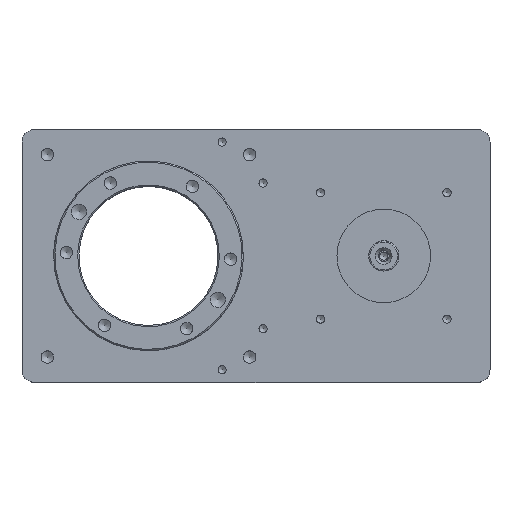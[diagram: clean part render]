
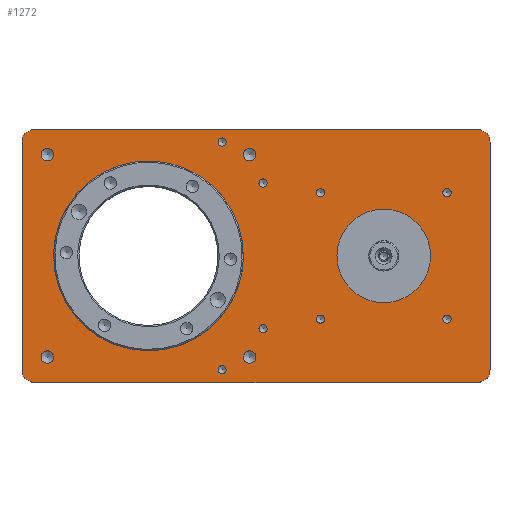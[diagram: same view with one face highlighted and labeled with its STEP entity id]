
A CAD part, top view. The second image highlights one B-rep face of the part: STEP entity #1272.
In plain terms, the highlighted planar face has unit normal (0, 0, 1).
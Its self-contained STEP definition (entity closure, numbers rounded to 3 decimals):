
#621=CARTESIAN_POINT('',(96.921,21.2,48.));
#622=VERTEX_POINT('',#621);
#623=CARTESIAN_POINT('',(95.3,21.2,48.));
#624=DIRECTION('',(0.0,0.0,-1.0));
#625=DIRECTION('',(1.0,0.0,0.0));
#626=AXIS2_PLACEMENT_3D('',#623,#624,#625);
#627=CIRCLE('',#626,1.621);
#628=EDGE_CURVE('',#622,#622,#627,.T.);
#658=CARTESIAN_POINT('',(80.721,5.0,48.));
#659=VERTEX_POINT('',#658);
#660=CARTESIAN_POINT('',(79.1,5.0,48.));
#661=DIRECTION('',(0.0,0.0,-1.0));
#662=DIRECTION('',(1.0,0.0,0.0));
#663=AXIS2_PLACEMENT_3D('',#660,#661,#662);
#664=CIRCLE('',#663,1.621);
#665=EDGE_CURVE('',#659,#659,#664,.T.);
#695=CARTESIAN_POINT('',(96.921,78.8,48.));
#696=VERTEX_POINT('',#695);
#697=CARTESIAN_POINT('',(95.3,78.8,48.));
#698=DIRECTION('',(0.0,0.0,-1.0));
#699=DIRECTION('',(1.0,0.0,0.0));
#700=AXIS2_PLACEMENT_3D('',#697,#698,#699);
#701=CIRCLE('',#700,1.621);
#702=EDGE_CURVE('',#696,#696,#701,.T.);
#732=CARTESIAN_POINT('',(80.721,95.0,48.));
#733=VERTEX_POINT('',#732);
#734=CARTESIAN_POINT('',(79.1,95.0,48.));
#735=DIRECTION('',(0.0,0.0,-1.0));
#736=DIRECTION('',(1.0,0.0,0.0));
#737=AXIS2_PLACEMENT_3D('',#734,#735,#736);
#738=CIRCLE('',#737,1.621);
#739=EDGE_CURVE('',#733,#733,#738,.T.);
#769=CARTESIAN_POINT('',(169.621,25.,48.));
#770=VERTEX_POINT('',#769);
#771=CARTESIAN_POINT('',(168.,25.,48.));
#772=DIRECTION('',(0.0,0.0,-1.0));
#773=DIRECTION('',(1.0,0.0,0.0));
#774=AXIS2_PLACEMENT_3D('',#771,#772,#773);
#775=CIRCLE('',#774,1.621);
#776=EDGE_CURVE('',#770,#770,#775,.T.);
#806=CARTESIAN_POINT('',(119.621,25.,48.));
#807=VERTEX_POINT('',#806);
#808=CARTESIAN_POINT('',(118.0,25.,48.));
#809=DIRECTION('',(0.0,0.0,-1.0));
#810=DIRECTION('',(1.0,0.0,0.0));
#811=AXIS2_PLACEMENT_3D('',#808,#809,#810);
#812=CIRCLE('',#811,1.621);
#813=EDGE_CURVE('',#807,#807,#812,.T.);
#843=CARTESIAN_POINT('',(169.621,75.,48.));
#844=VERTEX_POINT('',#843);
#845=CARTESIAN_POINT('',(168.,75.,48.));
#846=DIRECTION('',(0.0,0.0,-1.0));
#847=DIRECTION('',(1.0,0.0,0.0));
#848=AXIS2_PLACEMENT_3D('',#845,#846,#847);
#849=CIRCLE('',#848,1.621);
#850=EDGE_CURVE('',#844,#844,#849,.T.);
#880=CARTESIAN_POINT('',(119.621,75.,48.));
#881=VERTEX_POINT('',#880);
#882=CARTESIAN_POINT('',(118.0,75.,48.));
#883=DIRECTION('',(0.0,0.0,-1.0));
#884=DIRECTION('',(1.0,0.0,0.0));
#885=AXIS2_PLACEMENT_3D('',#882,#883,#884);
#886=CIRCLE('',#885,1.621);
#887=EDGE_CURVE('',#881,#881,#886,.T.);
#917=CARTESIAN_POINT('',(92.459,10.0,48.));
#918=VERTEX_POINT('',#917);
#919=CARTESIAN_POINT('',(90.0,10.0,48.));
#920=DIRECTION('',(0.0,0.0,-1.0));
#921=DIRECTION('',(1.0,0.0,0.0));
#922=AXIS2_PLACEMENT_3D('',#919,#920,#921);
#923=CIRCLE('',#922,2.459);
#924=EDGE_CURVE('',#918,#918,#923,.T.);
#954=CARTESIAN_POINT('',(12.458,10.,48.));
#955=VERTEX_POINT('',#954);
#956=CARTESIAN_POINT('',(10.,10.,48.));
#957=DIRECTION('',(0.0,0.0,-1.0));
#958=DIRECTION('',(1.0,0.0,0.0));
#959=AXIS2_PLACEMENT_3D('',#956,#957,#958);
#960=CIRCLE('',#959,2.459);
#961=EDGE_CURVE('',#955,#955,#960,.T.);
#991=CARTESIAN_POINT('',(92.458,90.0,48.));
#992=VERTEX_POINT('',#991);
#993=CARTESIAN_POINT('',(90.,90.0,48.));
#994=DIRECTION('',(0.0,0.0,-1.0));
#995=DIRECTION('',(1.0,0.0,0.0));
#996=AXIS2_PLACEMENT_3D('',#993,#994,#995);
#997=CIRCLE('',#996,2.459);
#998=EDGE_CURVE('',#992,#992,#997,.T.);
#1028=CARTESIAN_POINT('',(12.458,90.0,48.));
#1029=VERTEX_POINT('',#1028);
#1030=CARTESIAN_POINT('',(10.,90.0,48.));
#1031=DIRECTION('',(0.0,0.0,-1.0));
#1032=DIRECTION('',(1.0,0.0,0.0));
#1033=AXIS2_PLACEMENT_3D('',#1030,#1031,#1032);
#1034=CIRCLE('',#1033,2.459);
#1035=EDGE_CURVE('',#1029,#1029,#1034,.T.);
#1059=CARTESIAN_POINT('',(161.5,50.,48.));
#1060=VERTEX_POINT('',#1059);
#1061=CARTESIAN_POINT('',(143.0,50.,48.));
#1062=DIRECTION('',(0.0,0.0,-1.0));
#1063=DIRECTION('',(-1.0,0.0,0.0));
#1064=AXIS2_PLACEMENT_3D('',#1061,#1062,#1063);
#1065=CIRCLE('',#1064,18.5);
#1066=EDGE_CURVE('',#1060,#1060,#1065,.T.);
#1096=CARTESIAN_POINT('',(0.,95.0,48.));
#1097=VERTEX_POINT('',#1096);
#1098=CARTESIAN_POINT('',(5.,100.0,48.));
#1099=VERTEX_POINT('',#1098);
#1100=CARTESIAN_POINT('',(5.,95.0,48.));
#1101=DIRECTION('',(0.0,0.0,-1.0));
#1102=DIRECTION('',(-0.707,0.707,0.0));
#1103=AXIS2_PLACEMENT_3D('',#1100,#1101,#1102);
#1104=CIRCLE('',#1103,5.);
#1105=EDGE_CURVE('',#1097,#1099,#1104,.T.);
#1139=CARTESIAN_POINT('',(180.,100.,48.));
#1140=VERTEX_POINT('',#1139);
#1141=CARTESIAN_POINT('',(5.,100.0,48.));
#1142=DIRECTION('',(1.0,0.0,0.0));
#1143=VECTOR('',#1142,175.0);
#1144=LINE('',#1141,#1143);
#1145=EDGE_CURVE('',#1099,#1140,#1144,.T.);
#1164=CARTESIAN_POINT('',(92.5,50.0,48.));
#1165=DIRECTION('',(0.0,0.0,1.0));
#1166=DIRECTION('',(1.0,0.0,0.0));
#1167=AXIS2_PLACEMENT_3D('',#1164,#1165,#1166);
#1168=PLANE('',#1167);
#1169=ORIENTED_EDGE('',*,*,#1105,.F.);
#1170=CARTESIAN_POINT('',(0.,5.0,48.));
#1171=VERTEX_POINT('',#1170);
#1172=CARTESIAN_POINT('',(0.,5.0,48.));
#1173=DIRECTION('',(0.0,1.0,0.0));
#1174=VECTOR('',#1173,90.0);
#1175=LINE('',#1172,#1174);
#1176=EDGE_CURVE('',#1171,#1097,#1175,.T.);
#1177=ORIENTED_EDGE('',*,*,#1176,.F.);
#1178=CARTESIAN_POINT('',(5.,0.0,48.));
#1179=VERTEX_POINT('',#1178);
#1180=CARTESIAN_POINT('',(5.,5.0,48.));
#1181=DIRECTION('',(0.0,0.0,-1.0));
#1182=DIRECTION('',(-0.707,-0.707,0.0));
#1183=AXIS2_PLACEMENT_3D('',#1180,#1181,#1182);
#1184=CIRCLE('',#1183,5.0);
#1185=EDGE_CURVE('',#1179,#1171,#1184,.T.);
#1186=ORIENTED_EDGE('',*,*,#1185,.F.);
#1187=CARTESIAN_POINT('',(180.,0.0,48.));
#1188=VERTEX_POINT('',#1187);
#1189=CARTESIAN_POINT('',(180.,0.0,48.));
#1190=DIRECTION('',(-1.0,0.0,0.0));
#1191=VECTOR('',#1190,175.);
#1192=LINE('',#1189,#1191);
#1193=EDGE_CURVE('',#1188,#1179,#1192,.T.);
#1194=ORIENTED_EDGE('',*,*,#1193,.F.);
#1195=CARTESIAN_POINT('',(185.,5.0,48.));
#1196=VERTEX_POINT('',#1195);
#1197=CARTESIAN_POINT('',(180.,5.0,48.));
#1198=DIRECTION('',(0.0,0.0,-1.0));
#1199=DIRECTION('',(0.707,-0.707,0.0));
#1200=AXIS2_PLACEMENT_3D('',#1197,#1198,#1199);
#1201=CIRCLE('',#1200,5.);
#1202=EDGE_CURVE('',#1196,#1188,#1201,.T.);
#1203=ORIENTED_EDGE('',*,*,#1202,.F.);
#1204=CARTESIAN_POINT('',(185.,95.,48.));
#1205=VERTEX_POINT('',#1204);
#1206=CARTESIAN_POINT('',(185.,95.,48.));
#1207=DIRECTION('',(0.0,-1.0,0.0));
#1208=VECTOR('',#1207,90.);
#1209=LINE('',#1206,#1208);
#1210=EDGE_CURVE('',#1205,#1196,#1209,.T.);
#1211=ORIENTED_EDGE('',*,*,#1210,.F.);
#1212=CARTESIAN_POINT('',(180.,95.,48.));
#1213=DIRECTION('',(0.0,0.0,-1.0));
#1214=DIRECTION('',(0.707,0.707,0.0));
#1215=AXIS2_PLACEMENT_3D('',#1212,#1213,#1214);
#1216=CIRCLE('',#1215,5.);
#1217=EDGE_CURVE('',#1140,#1205,#1216,.T.);
#1218=ORIENTED_EDGE('',*,*,#1217,.F.);
#1219=ORIENTED_EDGE('',*,*,#1145,.F.);
#1220=EDGE_LOOP('',(#1169,#1177,#1186,#1194,#1203,#1211,#1218,#1219));
#1221=FACE_OUTER_BOUND('',#1220,.T.);
#1222=ORIENTED_EDGE('',*,*,#628,.T.);
#1223=EDGE_LOOP('',(#1222));
#1224=FACE_BOUND('',#1223,.T.);
#1225=ORIENTED_EDGE('',*,*,#665,.T.);
#1226=EDGE_LOOP('',(#1225));
#1227=FACE_BOUND('',#1226,.T.);
#1228=ORIENTED_EDGE('',*,*,#702,.T.);
#1229=EDGE_LOOP('',(#1228));
#1230=FACE_BOUND('',#1229,.T.);
#1231=ORIENTED_EDGE('',*,*,#739,.T.);
#1232=EDGE_LOOP('',(#1231));
#1233=FACE_BOUND('',#1232,.T.);
#1234=ORIENTED_EDGE('',*,*,#776,.T.);
#1235=EDGE_LOOP('',(#1234));
#1236=FACE_BOUND('',#1235,.T.);
#1237=ORIENTED_EDGE('',*,*,#813,.T.);
#1238=EDGE_LOOP('',(#1237));
#1239=FACE_BOUND('',#1238,.T.);
#1240=ORIENTED_EDGE('',*,*,#850,.T.);
#1241=EDGE_LOOP('',(#1240));
#1242=FACE_BOUND('',#1241,.T.);
#1243=ORIENTED_EDGE('',*,*,#887,.T.);
#1244=EDGE_LOOP('',(#1243));
#1245=FACE_BOUND('',#1244,.T.);
#1246=ORIENTED_EDGE('',*,*,#924,.T.);
#1247=EDGE_LOOP('',(#1246));
#1248=FACE_BOUND('',#1247,.T.);
#1249=ORIENTED_EDGE('',*,*,#961,.T.);
#1250=EDGE_LOOP('',(#1249));
#1251=FACE_BOUND('',#1250,.T.);
#1252=ORIENTED_EDGE('',*,*,#998,.T.);
#1253=EDGE_LOOP('',(#1252));
#1254=FACE_BOUND('',#1253,.T.);
#1255=ORIENTED_EDGE('',*,*,#1035,.T.);
#1256=EDGE_LOOP('',(#1255));
#1257=FACE_BOUND('',#1256,.T.);
#1258=ORIENTED_EDGE('',*,*,#1066,.T.);
#1259=EDGE_LOOP('',(#1258));
#1260=FACE_BOUND('',#1259,.T.);
#1261=CARTESIAN_POINT('',(87.5,50.,48.));
#1262=VERTEX_POINT('',#1261);
#1263=CARTESIAN_POINT('',(50.,50.,48.));
#1264=DIRECTION('',(0.0,0.0,-1.0));
#1265=DIRECTION('',(-1.0,0.0,0.0));
#1266=AXIS2_PLACEMENT_3D('',#1263,#1264,#1265);
#1267=CIRCLE('',#1266,37.5);
#1268=EDGE_CURVE('',#1262,#1262,#1267,.T.);
#1269=ORIENTED_EDGE('',*,*,#1268,.T.);
#1270=EDGE_LOOP('',(#1269));
#1271=FACE_BOUND('',#1270,.T.);
#1272=ADVANCED_FACE('',(#1221,#1224,#1227,#1230,#1233,#1236,#1239,#1242,#1245,#1248,#1251,#1254,#1257,#1260,#1271),#1168,.T.);
